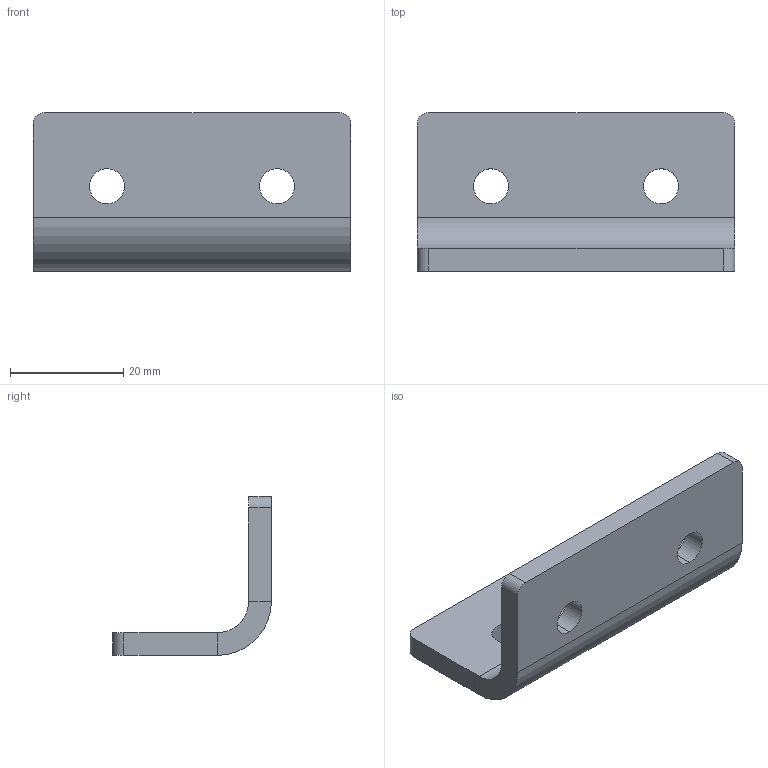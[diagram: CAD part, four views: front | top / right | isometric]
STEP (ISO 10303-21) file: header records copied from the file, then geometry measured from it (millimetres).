
FILE_DESCRIPTION (( 'STEP AP214' ), '1' );
FILE_NAME ('8102s.STEP', '2015-03-29T08:53:24', ( '' ), ( '' ), 'SwSTEP 2.0', 'SolidWorks 2014', '' );
FILE_SCHEMA (( 'AUTOMOTIVE_DESIGN' ));
Length unit declared in the file: millimetre
Products named in the file (1): 8102s
Bounding box: 56 x 28 x 28 mm (x, y, z)
Volume: 10424.4 mm3; surface area: 6348.1 mm2
Topology: 1 solids, 1 shells, 26 faces, 64 edges, 40 vertices
Faces by surface type: cylinder 14, plane 12
Entity records: 822 total; most frequent: DIRECTION 146, CARTESIAN_POINT 131, ORIENTED_EDGE 128, EDGE_CURVE 64, AXIS2_PLACEMENT_3D 55, VERTEX_POINT 40, VECTOR 36, LINE 36
